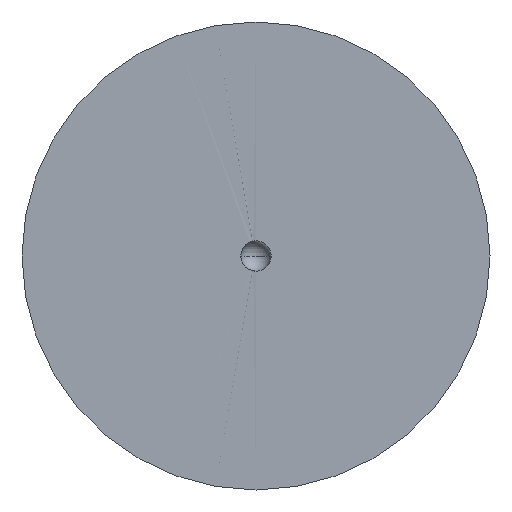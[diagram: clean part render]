
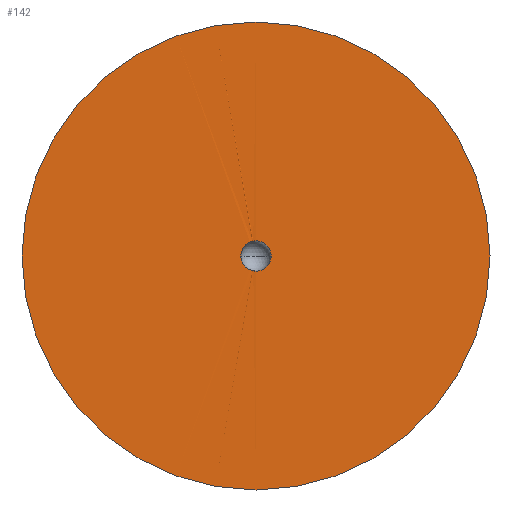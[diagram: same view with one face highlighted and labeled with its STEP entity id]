
A CAD part, front view. The second image highlights one B-rep face of the part: STEP entity #142.
In plain terms, the highlighted planar face has unit normal (0, -1, 0).
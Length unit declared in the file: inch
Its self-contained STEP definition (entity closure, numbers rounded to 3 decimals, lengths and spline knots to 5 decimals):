
#1 = CARTESIAN_POINT ( 'NONE',  ( 0., -0.08, 0. ) ) ;
#3 = DIRECTION ( 'NONE',  ( 0., 0., 1. ) ) ;
#15 = CARTESIAN_POINT ( 'NONE',  ( 0., -0.08, 0. ) ) ;
#18 = DIRECTION ( 'NONE',  ( 0., -1., 0. ) ) ;
#20 = DIRECTION ( 'NONE',  ( 0., 0., 1. ) ) ;
#28 = ORIENTED_EDGE ( 'NONE', *, *, #46, .F. ) ;
#38 = FACE_BOUND ( 'NONE', #203, .T. ) ;
#46 = EDGE_CURVE ( 'NONE', #120, #237, #231, .T. ) ;
#59 = EDGE_CURVE ( 'NONE', #282, #258, #162, .T. ) ;
#71 = EDGE_CURVE ( 'NONE', #258, #282, #283, .T. ) ;
#110 = AXIS2_PLACEMENT_3D ( 'NONE', #176, #151, #157 ) ;
#117 = ORIENTED_EDGE ( 'NONE', *, *, #59, .T. ) ;
#120 = VERTEX_POINT ( 'NONE', #213 ) ;
#139 = DIRECTION ( 'NONE',  ( 0., 1., 0. ) ) ;
#140 = ORIENTED_EDGE ( 'NONE', *, *, #71, .T. ) ;
#142 = ADVANCED_FACE ( 'NONE', ( #38, #268 ), #193, .T. ) ;
#151 = DIRECTION ( 'NONE',  ( 0., 1., 0. ) ) ;
#153 = CARTESIAN_POINT ( 'NONE',  ( -0.625, -0.08, 0. ) ) ;
#154 = DIRECTION ( 'NONE',  ( 0., 0., -1. ) ) ;
#157 = DIRECTION ( 'NONE',  ( 0., 0., 1. ) ) ;
#162 = CIRCLE ( 'NONE', #278, 0.04038 ) ;
#167 = EDGE_LOOP ( 'NONE', ( #28, #179 ) ) ;
#176 = CARTESIAN_POINT ( 'NONE',  ( 0., -0.08, 0. ) ) ;
#179 = ORIENTED_EDGE ( 'NONE', *, *, #286, .F. ) ;
#182 = AXIS2_PLACEMENT_3D ( 'NONE', #153, #18, #154 ) ;
#186 = AXIS2_PLACEMENT_3D ( 'NONE', #15, #267, #290 ) ;
#193 = PLANE ( 'NONE',  #182 ) ;
#203 = EDGE_LOOP ( 'NONE', ( #140, #117 ) ) ;
#204 = AXIS2_PLACEMENT_3D ( 'NONE', #253, #139, #3 ) ;
#213 = CARTESIAN_POINT ( 'NONE',  ( 0., -0.08, 0.625 ) ) ;
#223 = CARTESIAN_POINT ( 'NONE',  ( 0.04038, -0.08, 0. ) ) ;
#226 = CIRCLE ( 'NONE', #204, 0.625 ) ;
#231 = CIRCLE ( 'NONE', #186, 0.625 ) ;
#237 = VERTEX_POINT ( 'NONE', #254 ) ;
#241 = DIRECTION ( 'NONE',  ( 0., 1., 0. ) ) ;
#253 = CARTESIAN_POINT ( 'NONE',  ( 0., -0.08, 0. ) ) ;
#254 = CARTESIAN_POINT ( 'NONE',  ( 0., -0.08, -0.625 ) ) ;
#258 = VERTEX_POINT ( 'NONE', #273 ) ;
#267 = DIRECTION ( 'NONE',  ( 0., 1., 0. ) ) ;
#268 = FACE_OUTER_BOUND ( 'NONE', #167, .T. ) ;
#273 = CARTESIAN_POINT ( 'NONE',  ( -0.04038, -0.08, 0. ) ) ;
#278 = AXIS2_PLACEMENT_3D ( 'NONE', #1, #241, #20 ) ;
#282 = VERTEX_POINT ( 'NONE', #223 ) ;
#283 = CIRCLE ( 'NONE', #110, 0.04038 ) ;
#286 = EDGE_CURVE ( 'NONE', #237, #120, #226, .T. ) ;
#290 = DIRECTION ( 'NONE',  ( 0., 0., 1. ) ) ;
